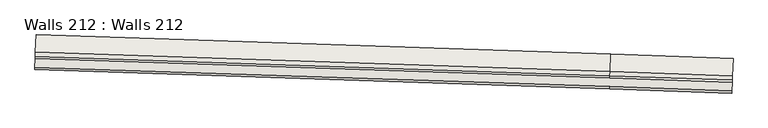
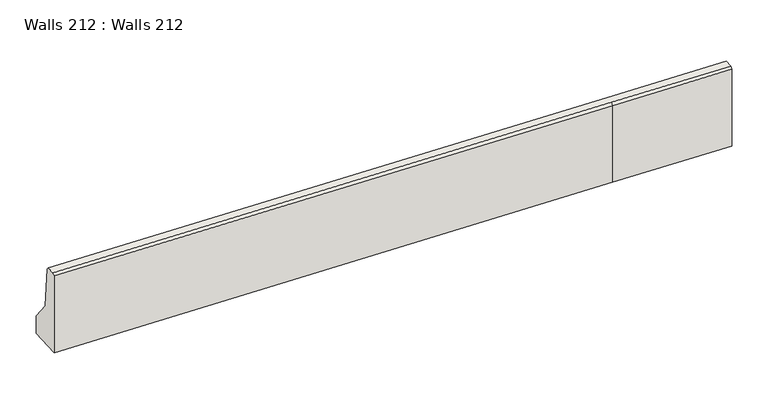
"""IFC4 building model written with IfcOpenShell, lengths in millimetres: wall geometry, Walls 212 : Walls 212."""

from ifc_helpers import new_model, si_unit, frame, origin, place, context, project, spatial, polyline, circle_curve, source, transform, mapped, element, save
from ifc_brep_helpers import plane_surface, cylinder_surface, revolved_surface, advanced_brep


def walls_212_walls_212_56afccbe(model_context):
    return source(origin(), model_context, "Body", "AdvancedBrep", [
        advanced_brep(
        [(-790218.0431088, -408588.5805884, 638180.0), (-790225.8911404, -408788.4265501, 638430.0), (-790227.8531483, -408838.3880405, 638935.0), (-790228.8341522, -408863.3687857, 638960.0), (-790232.758168, -408963.2917665, 638960.0), (-790233.739172, -408988.2725118, 638935.0), (-790233.739172, -408988.2725118, 637960.0), (-790218.0431088, -408588.5805884, 637960.0), (-791629.2197563, -408737.2610521, 638430.0), (-791622.4934902, -408537.3741907, 638180.0), (-791630.9013229, -408787.2327674, 638935.0), (-791631.7421061, -408812.2186251, 638960.0), (-791635.1052392, -408912.1620558, 638960.0), (-798224.869921, -408590.3574596, 638960.0), (-798228.233054, -408690.3008903, 638960.0), (-791635.9460224, -408937.1479134, 638935.0), (-791635.9460224, -408937.1479135, 637960.0), (-791622.4934902, -408537.3741907, 637960.0), (-798229.0738373, -408715.2867479, 637960.0), (-798215.6213051, -408315.5130252, 637960.0), (-798215.6213051, -408315.5130252, 638180.0), (-798229.0738373, -408715.2867479, 638935.0), (-798224.0291377, -408565.3716019, 638935.0), (-798222.3475712, -408515.3998866, 638430.0)],
        [
            (0, 1),
            (1, 2),
            (2, 3),
            (3, 4),
            (4, 5),
            (5, 6),
            (6, 7),
            (7, 0),
            (8, 1, circle_curve(frame((-800043.7786611, -658795.7254934, 638430.0), z_axis=(0.0, 0.0, -1.0), x_axis=(0.03924015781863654, 0.9992298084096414, 0.0)), 250200.00088)),
            (0, 9, circle_curve(frame((-800043.7786611, -658795.7254934, 638180.0), z_axis=(0.0, 0.0, 1.0), x_axis=(0.03924015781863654, 0.9992298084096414, 0.0)), 250400.00088)),
            (9, 8),
            (10, 2, circle_curve(frame((-800043.7786611, -658795.7254934, 638935.0), z_axis=(0.0, 0.0, -1.0), x_axis=(0.03924015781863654, 0.9992298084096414, 0.0)), 250150.00088)),
            (8, 10),
            (11, 3, circle_curve(frame((-800043.7786611, -658795.7254934, 638960.0), z_axis=(0.0, 0.0, -1.0), x_axis=(0.03924015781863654, 0.9992298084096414, 0.0)), 250125.00088)),
            (10, 11),
            (12, 4, circle_curve(frame((-800043.7786611, -658795.7254934, 638960.0), z_axis=(0.0, 0.0, -1.0), x_axis=(0.03924015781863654, 0.9992298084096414, 0.0)), 250025.00088)),
            (11, 13),
            (13, 14),
            (14, 12),
            (15, 5, circle_curve(frame((-800043.7786611, -658795.7254934, 638935.0), z_axis=(0.0, 0.0, -1.0), x_axis=(0.03924015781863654, 0.9992298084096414, 0.0)), 250000.00088)),
            (12, 15),
            (16, 6, circle_curve(frame((-800043.7786611, -658795.7254934, 637960.0), z_axis=(0.0, 0.0, -1.0), x_axis=(0.03924015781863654, 0.9992298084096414, 0.0)), 250000.00088)),
            (15, 16),
            (17, 7, circle_curve(frame((-800043.7786611, -658795.7254934, 637960.0), z_axis=(0.0, 0.0, -1.0), x_axis=(0.03924015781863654, 0.9992298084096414, 0.0)), 250400.00088)),
            (16, 18),
            (18, 19),
            (19, 17),
            (17, 9),
            (20, 19),
            (18, 21),
            (21, 14),
            (13, 22),
            (22, 23),
            (23, 20),
            (9, 20),
            (23, 8),
            (22, 10),
            (21, 15),
        ],
        [
            plane_surface(frame((-790233.739172, -408988.2725118, 0.0), z_axis=(0.9992298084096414, -0.039240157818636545, 0.0), x_axis=(0.0, 0.0, 1.0))),
            revolved_surface(polyline([(-790218.0431088, -408588.5805884, 638180.0), (-790225.8911404, -408788.4265501, 638430.0)]), (-800043.7786611, -658795.7254934, 0.0), (0.0, 0.0, 1.0)),
            revolved_surface(polyline([(-790225.8911404, -408788.4265501, 638430.0), (-790227.8531483, -408838.3880405, 638935.0)]), (-800043.7786611, -658795.7254934, 0.0), (0.0, 0.0, 1.0)),
            revolved_surface(polyline([(-790227.8531483, -408838.3880405, 638935.0), (-790228.8341522, -408863.3687857, 638960.0)]), (-800043.7786611, -658795.7254934, 0.0), (0.0, 0.0, 1.0)),
            plane_surface(frame((-800043.7786611, -658795.7254934, 638960.0), z_axis=(0.0, 0.0, 1.0), x_axis=(0.03924015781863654, 0.9992298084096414, 0.0))),
            revolved_surface(polyline([(-790232.758168, -408963.2917665, 638960.0), (-790233.739172, -408988.2725118, 638935.0)]), (-800043.7786611, -658795.7254934, 0.0), (0.0, 0.0, 1.0)),
            revolved_surface(polyline([(-790233.7391719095, -408988.27251166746, 638935.0), (-790233.7391719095, -408988.27251166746, 637960.0)]), (-800043.7786611, -658795.7254934, 0.0), (0.0, 0.0, 1.0)),
            plane_surface(frame((-800043.7786611, -658795.7254934, 637960.0), z_axis=(0.0, 0.0, -1.0), x_axis=(0.03924015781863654, 0.9992298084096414, 0.0))),
            cylinder_surface(frame((-800043.7786611, -658795.7254934, 0.0), z_axis=(0.0, 0.0, 1.0), x_axis=(0.03924015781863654, 0.9992298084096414, 0.0)), 250400.00088),
            plane_surface(frame((-798229.0738373, -408715.2867479, 0.0), z_axis=(-0.9994343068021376, 0.03363133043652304, 0.0), x_axis=(0.0, 0.0, 1.0))),
            plane_surface(frame((-791622.4934902, -408537.3741907, 638180.0), z_axis=(0.026261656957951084, 0.7804270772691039, 0.6246950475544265), x_axis=(-0.9994343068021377, 0.03363133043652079, 0.0))),
            plane_surface(frame((-791629.2197563, -408737.2610521, 638430.0), z_axis=(0.03346768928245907, 0.9945713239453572, 0.098528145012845), x_axis=(-0.9994343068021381, 0.033631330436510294, 0.0))),
            plane_surface(frame((-791630.9013229, -408787.2327674, 638935.0), z_axis=(0.023780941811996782, 0.7067067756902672, 0.7071067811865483), x_axis=(-0.9994343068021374, 0.033631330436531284, 0.0))),
            plane_surface(frame((-791635.1052392, -408912.1620558, 638960.0), z_axis=(-0.02378094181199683, -0.7067067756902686, 0.7071067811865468), x_axis=(-0.9994343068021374, 0.033631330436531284, 0.0))),
            plane_surface(frame((-791635.9460224, -408937.1479134, 638935.0), z_axis=(-0.03363133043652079, -0.9994343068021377, 0.0), x_axis=(-0.9994343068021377, 0.03363133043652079, 0.0))),
            plane_surface(frame((-791622.4934902, -408537.3741907, 637960.0), z_axis=(0.033631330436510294, 0.9994343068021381, 0.0), x_axis=(-0.9994343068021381, 0.033631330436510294, 0.0))),
        ],
        [
            (0, [[1, 2, 3, 4, 5, 6, 7, 8]]),
            (1, [[9, -1, 10, 11]]),
            (2, [[12, -2, -9, 13]]),
            (3, [[14, -3, -12, 15]]),
            (4, [[16, -4, -14, 17, 18, 19]]),
            (5, [[20, -5, -16, 21]]),
            (6, [[22, -6, -20, 23]]),
            (7, [[24, -7, -22, 25, 26, 27]]),
            (8, [[-10, -8, -24, 28]]),
            (9, [[29, -26, 30, 31, -18, 32, 33, 34]]),
            (10, [[-11, 35, -34, 36]]),
            (11, [[-13, -36, -33, 37]]),
            (12, [[-15, -37, -32, -17]]),
            (13, [[-21, -19, -31, 38]]),
            (14, [[-23, -38, -30, -25]]),
            (15, [[-28, -27, -29, -35]]),
        ],
    ),
    ])


if __name__ == "__main__":
    model = new_model("IFC4")
    model_context = context("Model", 3, world=origin())
    ifc_project = project(units=[si_unit("LENGTHUNIT", "METRE", prefix="MILLI")], contexts=[model_context])
    site = spatial("IfcSite", under=ifc_project)
    building = spatial("IfcBuilding", under=site)
    placement = place(None, origin())
    walls_212_walls_212_shape = walls_212_walls_212_56afccbe(model_context)
    element("IfcWall", 1, ObjectType="Walls 212 : Walls 212", at=placement, inside=building, context=model_context, shape_type="MappedRepresentation", body=[
        mapped(walls_212_walls_212_shape, transform((0.0, 0.0, 0.0), x_axis=(1.0, 0.0, 0.0), y_axis=(0.0, 1.0, 0.0), z_axis=(0.0, 0.0, 1.0))),
    ])
    save(model, "model.ifc")
